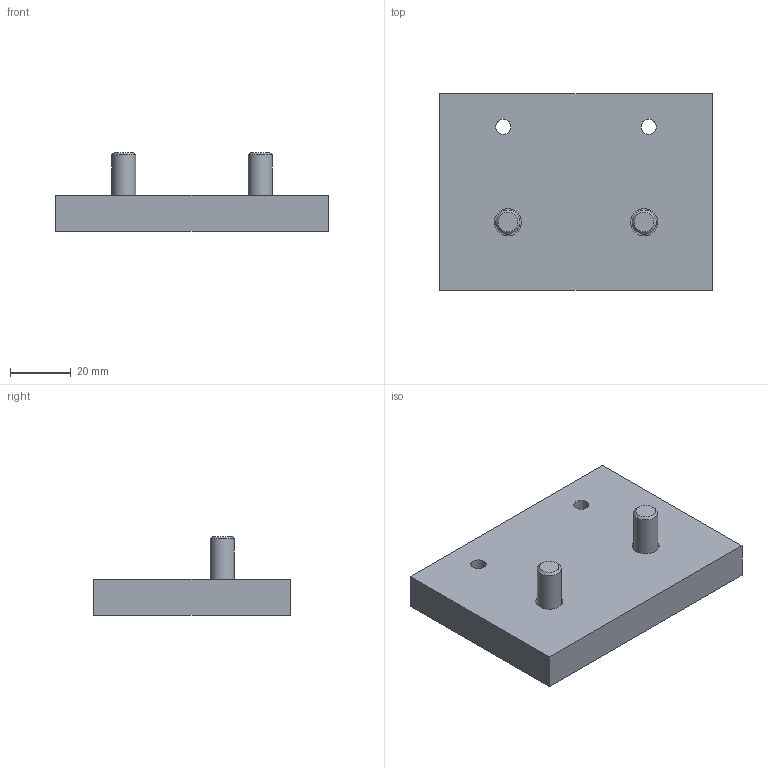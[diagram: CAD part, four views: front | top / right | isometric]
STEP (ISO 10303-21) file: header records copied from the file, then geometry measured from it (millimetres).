
FILE_DESCRIPTION((''),'2;1');
FILE_NAME('C:\Documents and Settings\Administrator\My Documents\Andys Backup Data\ANDY''S INVENTOR\INVENTOR LIBRARIES\MINITEC INVENTOR LIBRARIES\COMPONENTS LR\A PACKED FILES\STEP FILES\28.0055 FASTENING KIT FOR TENSIONER 45X90F.stp','2010-06-30T15:16:31',('Administrator'),(''),'Autodesk Inventor 2009','Autodesk Inventor 2009','');
FILE_SCHEMA(('CONFIG_CONTROL_DESIGN'));
Length unit declared in the file: millimetre
Products named in the file (3): 28.0055 FASTENING KIT FOR TENSIONER 45X90F; 28.0055 FASTENING KIT FOR TENSIONER 45x90F; 21.1202  M8 x 20
Assembly tree (3 placements, depth 2):
  28.0055 FASTENING KIT FOR TENSIONER 45X90F
    28.0055 FASTENING KIT FOR TENSIONER 45x90F
    21.1202  M8 x 20  x2
Bounding box: 90 x 65 x 26 mm (x, y, z)
Volume: 69965.1 mm3; surface area: 18404.1 mm2
Topology: 3 solids, 3 shells, 42 faces, 90 edges, 58 vertices
Faces by surface type: plane 26, cylinder 10, cone 4, torus 2
Full cylindrical faces by diameter (mm): 5 x2, 8 x2, 9 x2, 13 x2, 15 x2
Entity records: 784 total; most frequent: CARTESIAN_POINT 132, DIRECTION 128, ORIENTED_EDGE 96, AXIS2_PLACEMENT_3D 52, EDGE_LOOP 50, EDGE_CURVE 48, VERTEX_POINT 38, FACE_OUTER_BOUND 28
